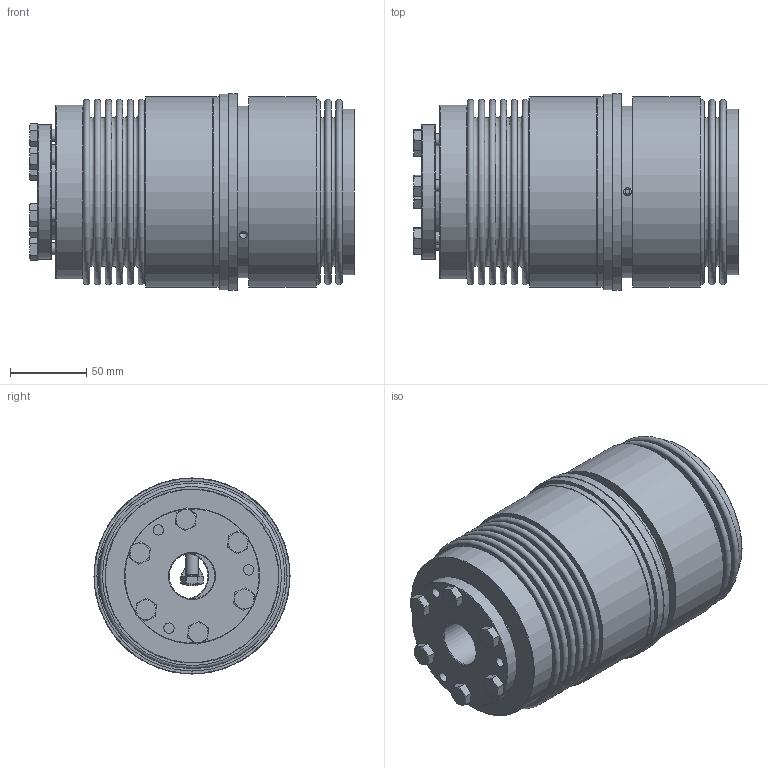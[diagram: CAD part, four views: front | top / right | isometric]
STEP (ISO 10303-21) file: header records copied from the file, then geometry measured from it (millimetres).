
FILE_DESCRIPTION( ( 'Unknown' ), '1' );
FILE_NAME( 'C:/Dokumente und Einstellungen/SKarpstein/Desktop/Korrigierte 3D Modelle/KBK-B-II/KBK-BII-500-162.stp', 'Unknown', ( 'Unknown' ), ( 'Unknown' ), 'XStep 1.0', 'Unknown', ' ' );
FILE_SCHEMA( ( 'automotive_design' ) );
Length unit declared in the file: millimetre
Products named in the file (12): Assem1; Assem2; Hex Screw GradeC_ISO_ISO 4018 - M8 x 35-NN_2; BA500_Standard_2; KB500_Standard_2; Stellring 500; Druckring 500; KBK L-I-500 Grundkörper; Konusbuchse 500; din_en_24017_m8x30_1; BL500_Standard_2; Flansch BI500
Bounding box: 213.6 x 129 x 129 mm (x, y, z)
Volume: 2250719.8 mm3; surface area: 731502.8 mm2
Topology: 38 solids, 38 shells, 821 faces, 1717 edges, 1094 vertices
Faces by surface type: plane 352, cone 237, cylinder 177, torus 55
Full cylindrical faces by diameter (mm): 3.242 x6, 5.1 x6, 5.2 x6, 6.647 x18, 6.8 x27, 8 x20, 9 x30, 11.63 x7, 30 x3, 35 x4, 62 x2, 62.6 x5, 65 x4, 80 x2, 86 x4, 89 x5, 90 x2, 93 x3, 104.5 x2, 107.7 x4, 108.9 x4, 113 x2, 114 x2, 114.5 x3, 125 x4, 129 x2
Entity records: 6625 total; most frequent: CARTESIAN_POINT 1355, DIRECTION 1080, ORIENTED_EDGE 682, AXIS2_PLACEMENT_3D 512, EDGE_LOOP 488, EDGE_CURVE 341, FACE_OUTER_BOUND 336, VERTEX_POINT 293
